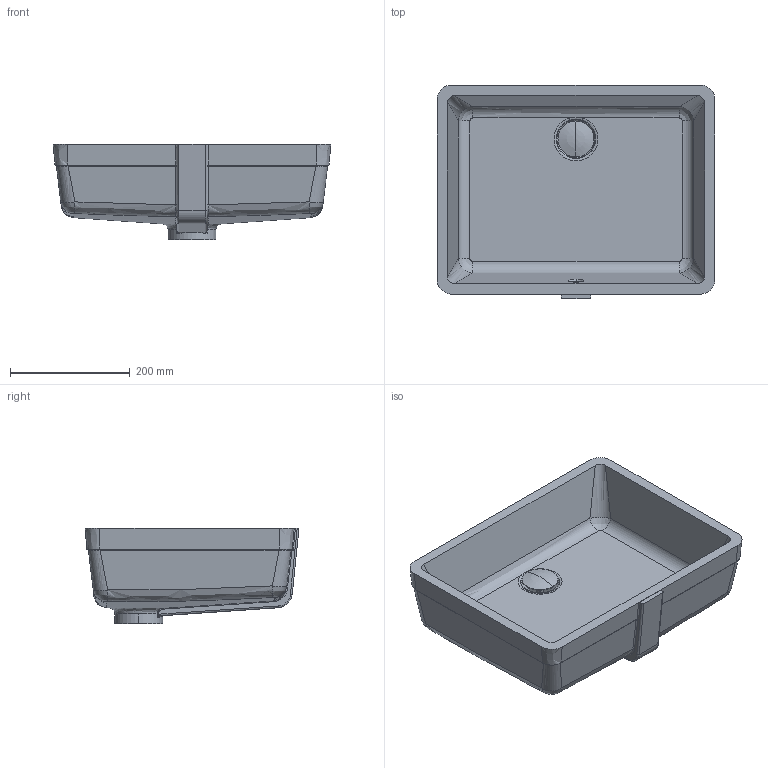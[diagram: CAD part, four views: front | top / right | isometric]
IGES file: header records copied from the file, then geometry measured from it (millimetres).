
Global section: file name: No Iges File Name specified; native system: Autodesk Inventor 2011; preprocessor: AutoDesk Inventor Iges Exporter R2011; author: Administrator; date: 20111218.185111; units: millimetre
Bounding box: 464.82 x 357.84 x 160 mm (x, y, z)
Volume: 6883893 mm3; surface area: 627025.4 mm2
Topology: 3 solids, 3 shells, 142 faces, 353 edges, 213 vertices
Faces by surface type: bspline 54, plane 32, revolution 25, cylinder 19, torus 9, cone 3
